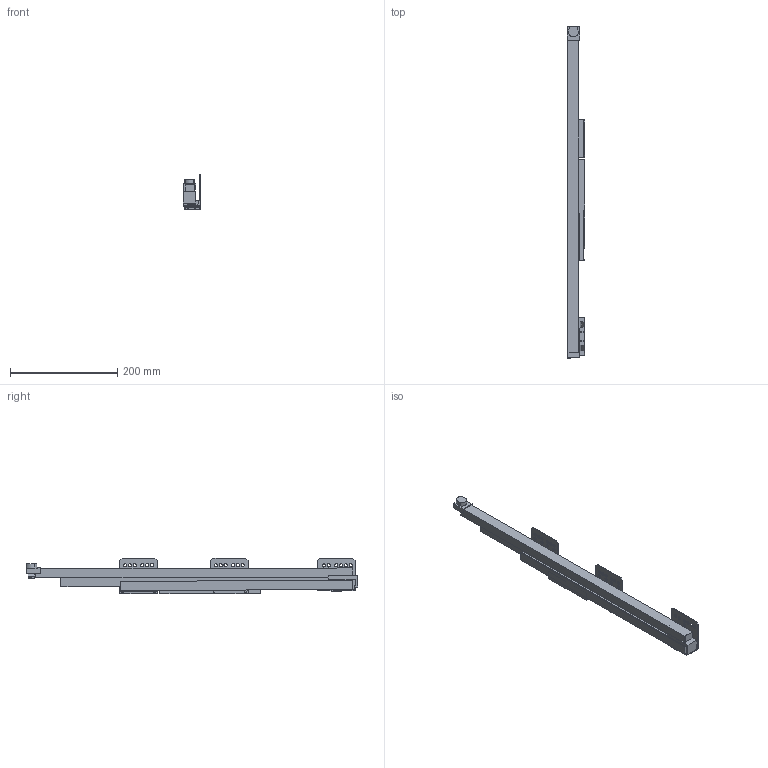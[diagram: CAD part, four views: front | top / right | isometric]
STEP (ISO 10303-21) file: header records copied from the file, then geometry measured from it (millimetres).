
FILE_DESCRIPTION (( 'STEP AP214' ), '1' );
FILE_NAME ('_IMOS Dynamic-XP VA 60kg NL600 RE Tipmatic.step', '2010-07-08T13:27:32', ( 'grass' ), ( '' ), 'SwSTEP 2.0', 'SolidWorks 2010', '' );
FILE_SCHEMA (( 'AUTOMOTIVE_DESIGN' ));
Length unit declared in the file: millimetre
Products named in the file (1): _IMOS Dynamic-XP VA 60kg NL600 RE Tipmatic
Bounding box: 33.14 x 618.02 x 66.67 mm (x, y, z)
Volume: 501162.9 mm3; surface area: 191405.4 mm2
Topology: 9 solids, 9 shells, 238 faces, 652 edges, 434 vertices
Faces by surface type: plane 167, cylinder 71
Entity records: 7758 total; most frequent: CARTESIAN_POINT 1325, ORIENTED_EDGE 1304, DIRECTION 1274, EDGE_CURVE 652, LINE 508, VECTOR 508, VERTEX_POINT 434, AXIS2_PLACEMENT_3D 383
